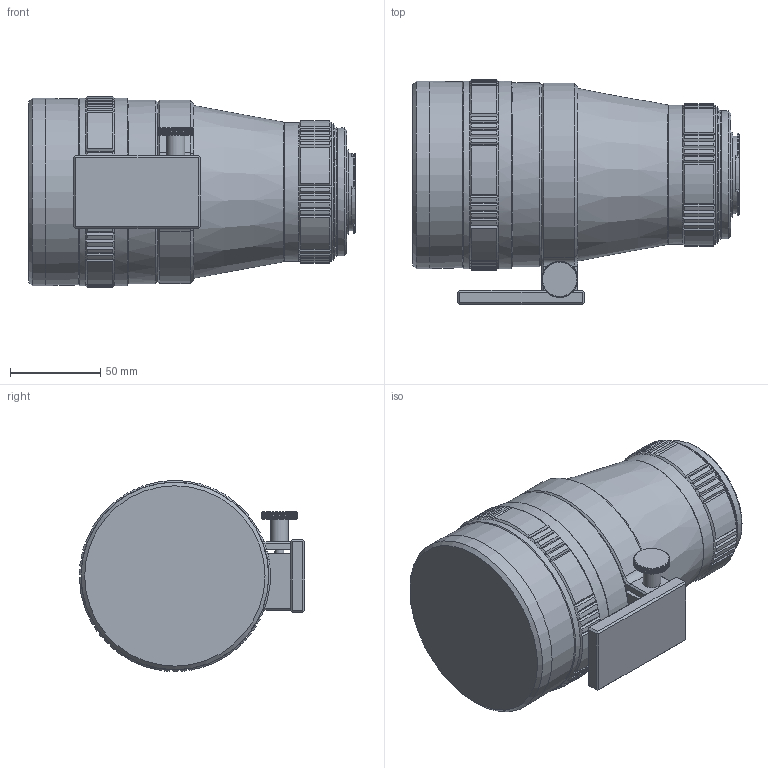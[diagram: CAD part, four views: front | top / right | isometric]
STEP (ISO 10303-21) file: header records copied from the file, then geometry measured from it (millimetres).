
FILE_DESCRIPTION((''),'2;1');
FILE_NAME('C:\Users\dblandino\Desktop\C1116_002_001.stp','2014-04-28T12:27:26',('dblandino'),(''),'Autodesk Inventor 2010','Autodesk Inventor 2010','');
FILE_SCHEMA(('AUTOMOTIVE_DESIGN { 1 0 10303 214 1 1 1 1 }'));
Length unit declared in the file: millimetre
Products named in the file (2): C1116_002_001.iam (Livello di dettaglio sostituto1); C1116_002_001_SUB
Assembly tree (1 placements, depth 2):
  C1116_002_001.iam (Livello di dettaglio sostituto1)
    C1116_002_001_SUB
Bounding box: 180.98 x 124.99 x 105.97 mm (x, y, z)
Volume: 1263816.9 mm3; surface area: 82931.9 mm2
Topology: 1 solids, 1 shells, 779 faces, 2022 edges, 1251 vertices
Faces by surface type: plane 424, cylinder 200, cone 151, bspline 4
Full cylindrical faces by diameter (mm): 5 x1, 10 x1, 43 x1, 47 x1, 76 x1, 77 x1, 102 x1, 104 x3
Entity records: 23566 total; most frequent: CARTESIAN_POINT 5353, ORIENTED_EDGE 3978, DIRECTION 3487, EDGE_CURVE 1989, AXIS2_PLACEMENT_3D 1360, VERTEX_POINT 1239, EDGE_LOOP 810, STYLED_ITEM 780
